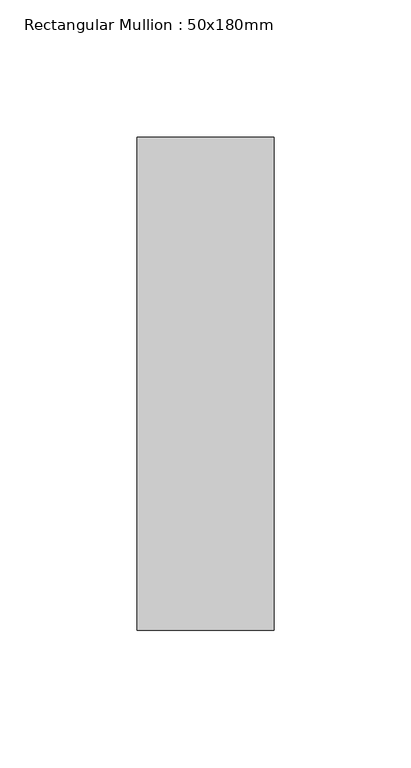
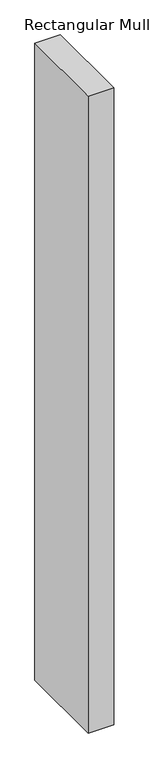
"""IFC4 building model written with IfcOpenShell, lengths in millimetres: member geometry, Rectangular Mullion : 50x180mm."""

from ifc_helpers import new_model, si_unit, frame, origin, place, context, project, spatial, polyline, outline, extrude, source, transform, mapped, element, save


def rectangular_mullion_50x180mm_2a498405(model_context):
    return source(origin(), model_context, "Body", "SweptSolid", [
        extrude(outline(polyline([(0.0, 90.0), (0.0, -90.0), (-50.0, -90.0), (-50.0, 90.0), (0.0, 90.0)])), frame((0.0, 0.0, -1315.8333336), z_axis=(0.0, 0.0, 1.0), x_axis=(1.0, 0.0, 0.0)), (0.0, 0.0, 1.0), 1315.8333336),
    ])


if __name__ == "__main__":
    model = new_model("IFC4")
    model_context = context("Model", 3, world=origin())
    ifc_project = project(units=[si_unit("LENGTHUNIT", "METRE", prefix="MILLI")], contexts=[model_context])
    site = spatial("IfcSite", under=ifc_project)
    building = spatial("IfcBuilding", under=site)
    placement = place(None, origin())
    rectangular_mullion_50x180mm_shape = rectangular_mullion_50x180mm_2a498405(model_context)
    element("IfcMember", 1, ObjectType="Rectangular Mullion : 50x180mm", at=placement, inside=building, context=model_context, shape_type="MappedRepresentation", body=[
        mapped(rectangular_mullion_50x180mm_shape, transform((0.0, 0.0, 0.0), x_axis=(1.0, 0.0, 0.0), y_axis=(0.0, 1.0, 0.0), z_axis=(0.0, 0.0, 1.0))),
    ])
    save(model, "model.ifc")
